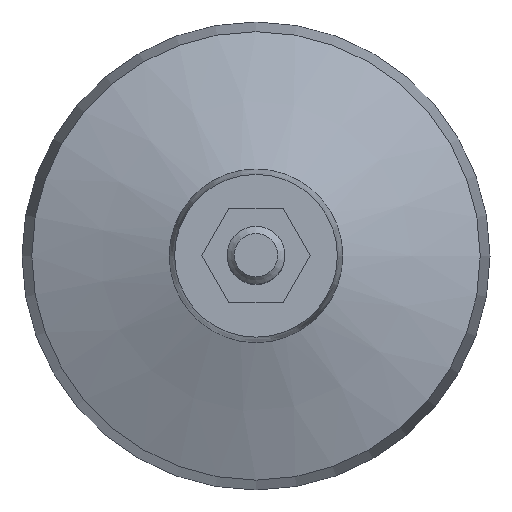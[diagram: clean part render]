
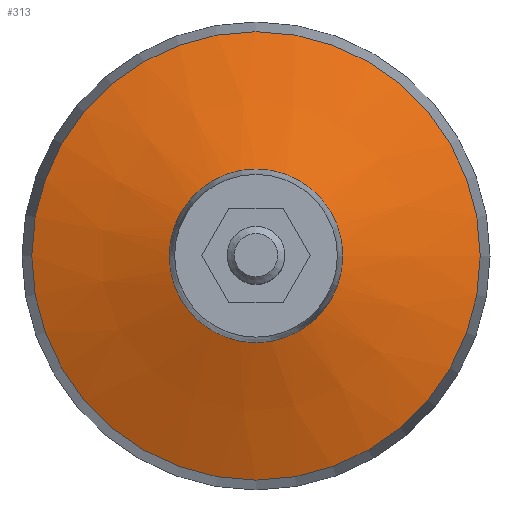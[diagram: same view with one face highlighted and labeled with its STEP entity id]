
A CAD part, top view. The second image highlights one B-rep face of the part: STEP entity #313.
In plain terms, the highlighted conical face has half-angle 69.775 degrees and reference radius 12 mm.
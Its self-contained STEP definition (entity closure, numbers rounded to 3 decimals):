
#163=CARTESIAN_POINT('',(31.,0.,7.));
#164=VERTEX_POINT('',#163);
#171=CARTESIAN_POINT('',(0.,0.,7.));
#172=DIRECTION('',(1.,0.,0.));
#173=DIRECTION('',(0.,0.,1.));
#174=AXIS2_PLACEMENT_3D('',#171,#173,#172);
#175=CIRCLE('',#174,31.);
#176=EDGE_CURVE('',#164,#164,#175,.T.);
#188=CARTESIAN_POINT('',(12.,0.,14.));
#189=VERTEX_POINT('',#188);
#206=CARTESIAN_POINT('',(0.,0.,14.));
#207=DIRECTION('',(1.,0.,0.));
#208=DIRECTION('',(0.,0.,1.));
#209=AXIS2_PLACEMENT_3D('',#206,#208,#207);
#210=CIRCLE('',#209,12.);
#211=EDGE_CURVE('',#189,#189,#210,.T.);
#297=CARTESIAN_POINT('',(0.,0.,14.));
#298=DIRECTION('',(1.,0.,0.));
#299=DIRECTION('',(0.,0.,-1.));
#300=AXIS2_PLACEMENT_3D('',#297,#299,#298);
#301=CONICAL_SURFACE('',#300,12.,1.218);
#302=CARTESIAN_POINT('',(31.,0.,7.));
#303=DIRECTION('',(-0.938,0.,0.346));
#304=VECTOR('',#303,20.248);
#305=LINE('',#302,#304);
#306=EDGE_CURVE('',#164,#189,#305,.T.);
#307=ORIENTED_EDGE('E2',*,*,#306,.F.);
#308=ORIENTED_EDGE('E2',*,*,#176,.F.);
#309=ORIENTED_EDGE('E2',*,*,#306,.T.);
#310=ORIENTED_EDGE('E2',*,*,#211,.T.);
#311=EDGE_LOOP('',(#307,#308,#309,#310));
#312=FACE_OUTER_BOUND('',#311,.F.);
#313=ADVANCED_FACE('F50',(#312),#301,.T.);
